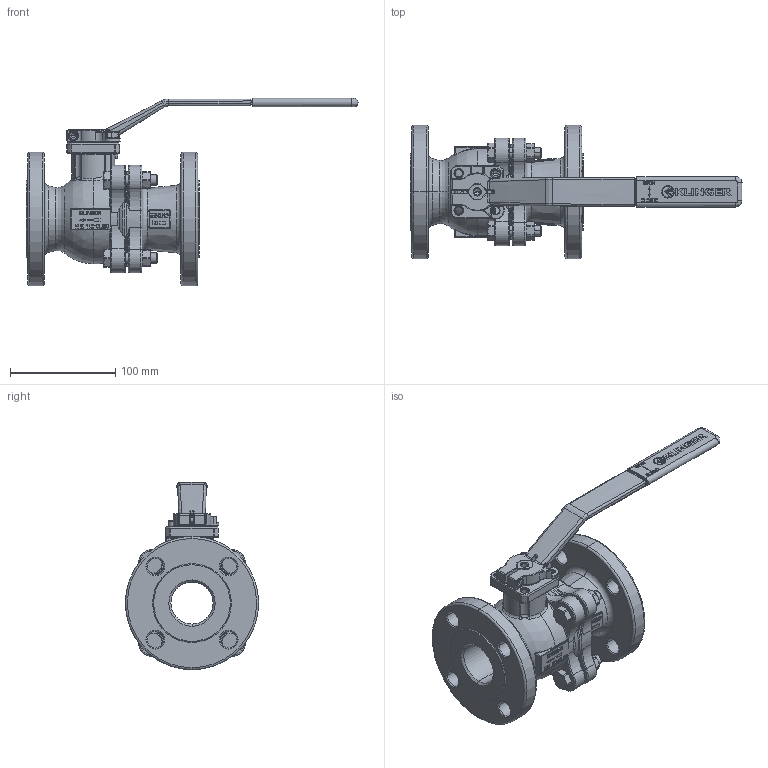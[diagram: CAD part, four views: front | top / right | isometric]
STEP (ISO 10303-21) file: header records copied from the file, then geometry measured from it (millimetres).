
FILE_DESCRIPTION((''),'2;1');
FILE_NAME('KHEFS-32VFS-32C150PKK','2015-08-10T',('mahrhauserh'),('RAND'),'PRO/ENGINEER BY PARAMETRIC TECHNOLOGY CORPORATION, 2013410','PRO/ENGINEER BY PARAMETRIC TECHNOLOGY CORPORATION, 2013410','');
FILE_SCHEMA(('CONFIG_CONTROL_DESIGN'));
Products named in the file (1): KHEFS-32VFS-32C150PKK
Bounding box: 316 x 127 x 178.55 mm (x, y, z)
Volume: 918280.9 mm3; surface area: 220138 mm2
Topology: 1 solids, 2 shells, 3161 faces, 8188 edges, 5173 vertices
Faces by surface type: plane 1912, cylinder 474, torus 322, bspline 218, cone 202, sphere 33
Entity records: 116867 total; most frequent: CARTESIAN_POINT 40454, ORIENTED_EDGE 16364, DIRECTION 15211, EDGE_CURVE 8182, VECTOR 5559, LINE 5559, VERTEX_POINT 5173, AXIS2_PLACEMENT_3D 4826
